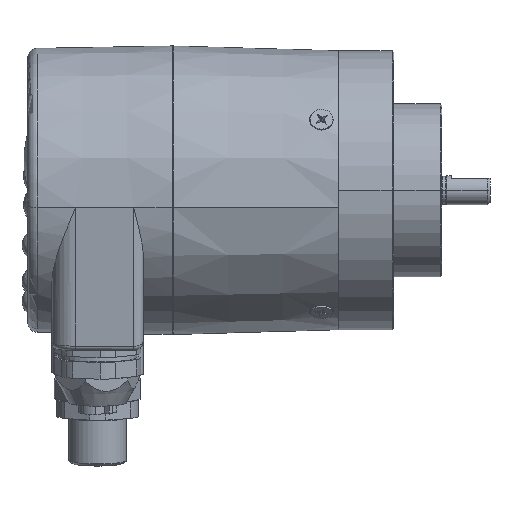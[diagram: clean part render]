
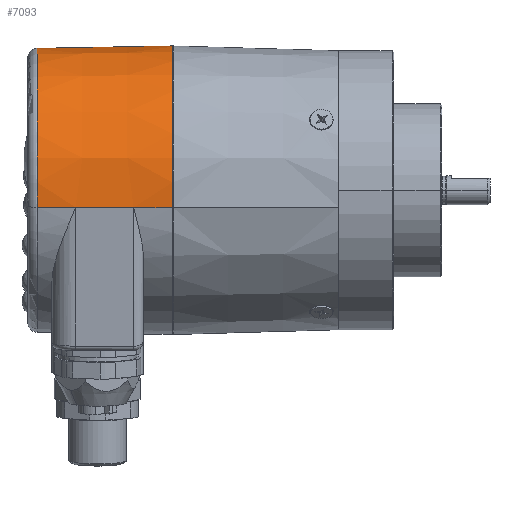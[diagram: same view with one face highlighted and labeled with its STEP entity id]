
A CAD part, top view. The second image highlights one B-rep face of the part: STEP entity #7093.
In plain terms, the highlighted conical face has half-angle 1 degrees and reference radius 30 mm.
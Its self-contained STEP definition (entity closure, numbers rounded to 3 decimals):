
#6801 = EDGE_CURVE ( 'NONE', #6962, #6803, #21302, .T. ) ;
#6803 = VERTEX_POINT ( 'NONE', #21294 ) ;
#6805 = ORIENTED_EDGE ( 'NONE', *, *, #6807, .T. ) ;
#6807 = EDGE_CURVE ( 'NONE', #6803, #6809, #21293, .T. ) ;
#6809 = VERTEX_POINT ( 'NONE', #21316 ) ;
#6810 = ORIENTED_EDGE ( 'NONE', *, *, #6811, .F. ) ;
#6811 = EDGE_CURVE ( 'NONE', #6812, #6809, #21315, .T. ) ;
#6812 = VERTEX_POINT ( 'NONE', #21310 ) ;
#6957 = VERTEX_POINT ( 'NONE', #21772 ) ;
#6958 = VERTEX_POINT ( 'NONE', #21771 ) ;
#6959 = ORIENTED_EDGE ( 'NONE', *, *, #6960, .T. ) ;
#6960 = EDGE_CURVE ( 'NONE', #6958, #6962, #21770, .T. ) ;
#6962 = VERTEX_POINT ( 'NONE', #21766 ) ;
#6963 = ORIENTED_EDGE ( 'NONE', *, *, #6801, .T. ) ;
#7020 = ORIENTED_EDGE ( 'NONE', *, *, #7161, .F. ) ;
#7087 = VERTEX_POINT ( 'NONE', #19864 ) ;
#7093 = ADVANCED_FACE ( 'NONE', ( #19995 ), #19978, .T. ) ;
#7094 = EDGE_LOOP ( 'NONE', ( #7214, #6959, #6963, #6805, #6810, #7020, #7220, #7138 ) ) ;
#7122 = EDGE_CURVE ( 'NONE', #6957, #7087, #16265, .T. ) ;
#7138 = ORIENTED_EDGE ( 'NONE', *, *, #7122, .F. ) ;
#7140 = VERTEX_POINT ( 'NONE', #16322 ) ;
#7161 = EDGE_CURVE ( 'NONE', #7140, #6812, #16233, .T. ) ;
#7185 = EDGE_CURVE ( 'NONE', #7087, #7140, #16299, .T. ) ;
#7214 = ORIENTED_EDGE ( 'NONE', *, *, #7216, .T. ) ;
#7216 = EDGE_CURVE ( 'NONE', #6957, #6958, #16480, .T. ) ;
#7220 = ORIENTED_EDGE ( 'NONE', *, *, #7185, .F. ) ;
#16230 = DIRECTION ( 'NONE',  ( 1., 0.002, -0.017 ) ) ;
#16231 = VECTOR ( 'NONE', #16230, 1000. ) ;
#16232 = CARTESIAN_POINT ( 'NONE',  ( -26.95, 3.656, -29.776 ) ) ;
#16233 = LINE ( 'NONE', #16232, #16231 ) ;
#16257 = DIRECTION ( 'NONE',  ( 1., 0.002, -0.017 ) ) ;
#16258 = VECTOR ( 'NONE', #16257, 1000. ) ;
#16259 = CARTESIAN_POINT ( 'NONE',  ( -26.95, 3.656, -29.776 ) ) ;
#16265 = LINE ( 'NONE', #16259, #16258 ) ;
#16296 = DIRECTION ( 'NONE',  ( 1., 0.002, -0.017 ) ) ;
#16297 = VECTOR ( 'NONE', #16296, 1000. ) ;
#16298 = CARTESIAN_POINT ( 'NONE',  ( -27.473, 3.655, -29.767 ) ) ;
#16299 = LINE ( 'NONE', #16298, #16297 ) ;
#16322 = CARTESIAN_POINT ( 'NONE',  ( -34.985, 3.639, -29.637 ) ) ;
#16477 = DIRECTION ( 'NONE',  ( 0., -0.122, 0.993 ) ) ;
#16478 = DIRECTION ( 'NONE',  ( 1., 0., 0. ) ) ;
#16479 = AXIS2_PLACEMENT_3D ( 'NONE', #16573, #16478, #16477 ) ;
#16480 = CIRCLE ( 'NONE', #16479, 29.511 ) ;
#16573 = CARTESIAN_POINT ( 'NONE',  ( -54.985, 0., 0. ) ) ;
#19864 = CARTESIAN_POINT ( 'NONE',  ( -47.037, 3.613, -29.428 ) ) ;
#19975 = DIRECTION ( 'NONE',  ( 0., 0.122, -0.993 ) ) ;
#19976 = DIRECTION ( 'NONE',  ( 1., 0., 0. ) ) ;
#19977 = AXIS2_PLACEMENT_3D ( 'NONE', #19979, #19976, #19975 ) ;
#19978 = CONICAL_SURFACE ( 'NONE', #19977, 30., 0.017 ) ;
#19979 = CARTESIAN_POINT ( 'NONE',  ( -26.95, 0., 0. ) ) ;
#19995 = FACE_OUTER_BOUND ( 'NONE', #7094, .T. ) ;
#21290 = DIRECTION ( 'NONE',  ( 1., -0.002, 0.017 ) ) ;
#21291 = VECTOR ( 'NONE', #21290, 1000. ) ;
#21292 = CARTESIAN_POINT ( 'NONE',  ( -26.95, -3.656, 29.776 ) ) ;
#21293 = LINE ( 'NONE', #21292, #21291 ) ;
#21294 = CARTESIAN_POINT ( 'NONE',  ( -34.985, -3.639, 29.637 ) ) ;
#21295 = DIRECTION ( 'NONE',  ( 1., -0.002, 0.017 ) ) ;
#21296 = VECTOR ( 'NONE', #21295, 1000. ) ;
#21297 = CARTESIAN_POINT ( 'NONE',  ( -27.473, -3.655, 29.767 ) ) ;
#21302 = LINE ( 'NONE', #21297, #21296 ) ;
#21310 = CARTESIAN_POINT ( 'NONE',  ( -26.95, 3.656, -29.776 ) ) ;
#21311 = DIRECTION ( 'NONE',  ( 0., 0.122, -0.993 ) ) ;
#21312 = DIRECTION ( 'NONE',  ( 1., 0., 0. ) ) ;
#21313 = CARTESIAN_POINT ( 'NONE',  ( -26.95, 0., 0. ) ) ;
#21314 = AXIS2_PLACEMENT_3D ( 'NONE', #21313, #21312, #21311 ) ;
#21315 = CIRCLE ( 'NONE', #21314, 30. ) ;
#21316 = CARTESIAN_POINT ( 'NONE',  ( -26.95, -3.656, 29.776 ) ) ;
#21766 = CARTESIAN_POINT ( 'NONE',  ( -47.037, -3.613, 29.428 ) ) ;
#21767 = DIRECTION ( 'NONE',  ( 1., -0.002, 0.017 ) ) ;
#21768 = VECTOR ( 'NONE', #21767, 1000. ) ;
#21769 = CARTESIAN_POINT ( 'NONE',  ( -26.95, -3.656, 29.776 ) ) ;
#21770 = LINE ( 'NONE', #21769, #21768 ) ;
#21771 = CARTESIAN_POINT ( 'NONE',  ( -54.985, -3.596, 29.291 ) ) ;
#21772 = CARTESIAN_POINT ( 'NONE',  ( -54.985, 3.596, -29.291 ) ) ;
